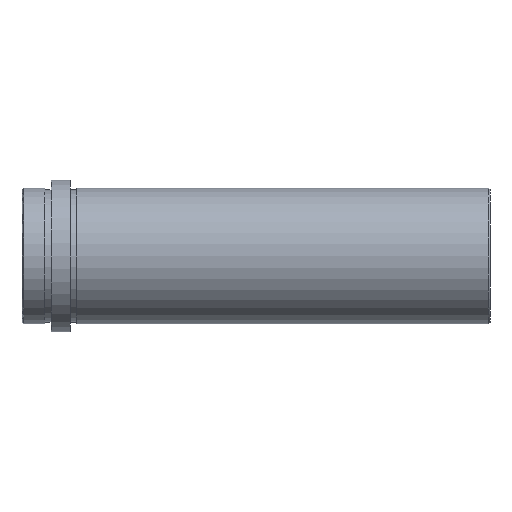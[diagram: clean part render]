
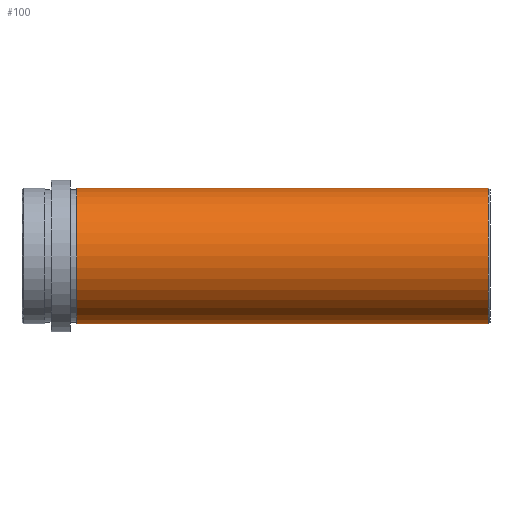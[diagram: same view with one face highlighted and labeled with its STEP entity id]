
A CAD part, front view. The second image highlights one B-rep face of the part: STEP entity #100.
In plain terms, the highlighted face is a revolution surface.
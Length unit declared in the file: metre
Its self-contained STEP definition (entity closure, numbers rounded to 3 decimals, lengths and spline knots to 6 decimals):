
#100 = ADVANCED_FACE( '', ( #157 ), #158, .F. );
#157 = FACE_OUTER_BOUND( '', #250, .T. );
#158 = SURFACE_OF_REVOLUTION( '', #251, #252 );
#250 = EDGE_LOOP( '', ( #419, #420, #421, #422 ) );
#251 = B_SPLINE_CURVE_WITH_KNOTS( '', 1, ( #423, #424 ), .UNSPECIFIED., .F., .F., ( 2, 2 ), ( -10000., 10000. ), .UNSPECIFIED. );
#252 = AXIS1_PLACEMENT( '', #425, #426 );
#419 = ORIENTED_EDGE( '', *, *, #492, .T. );
#420 = ORIENTED_EDGE( '', *, *, #490, .T. );
#421 = ORIENTED_EDGE( '', *, *, #445, .F. );
#422 = ORIENTED_EDGE( '', *, *, #489, .T. );
#423 = CARTESIAN_POINT( '', ( 10000.1445, 0., 0.021 ) );
#424 = CARTESIAN_POINT( '', ( -9999.8555, 0., 0.021 ) );
#425 = CARTESIAN_POINT( '', ( 0., 0., 0. ) );
#426 = DIRECTION( '', ( 1., 0., 0. ) );
#445 = EDGE_CURVE( '', #499, #500, #501, .T. );
#489 = EDGE_CURVE( '', #499, #571, #572, .F. );
#490 = EDGE_CURVE( '', #573, #500, #574, .T. );
#492 = EDGE_CURVE( '', #571, #573, #576, .T. );
#499 = VERTEX_POINT( '', #583 );
#500 = VERTEX_POINT( '', #584 );
#501 = CIRCLE( '', #585, 0.021 );
#571 = VERTEX_POINT( '', #671 );
#572 = LINE( '', #672, #673 );
#573 = VERTEX_POINT( '', #674 );
#574 = LINE( '', #675, #676 );
#576 = CIRCLE( '', #678, 0.021 );
#583 = CARTESIAN_POINT( '', ( 0.017, 0., -0.021 ) );
#584 = CARTESIAN_POINT( '', ( 0.017, 0., 0.021 ) );
#585 = AXIS2_PLACEMENT_3D( '', #689, #690, #691 );
#671 = CARTESIAN_POINT( '', ( 0.1445, 0., -0.021 ) );
#672 = CARTESIAN_POINT( '', ( 0.1445, 0., -0.021 ) );
#673 = VECTOR( '', #789, 1. );
#674 = CARTESIAN_POINT( '', ( 0.1445, 0., 0.021 ) );
#675 = CARTESIAN_POINT( '', ( 0.1445, 0., 0.021 ) );
#676 = VECTOR( '', #790, 1. );
#678 = AXIS2_PLACEMENT_3D( '', #794, #795, #796 );
#689 = CARTESIAN_POINT( '', ( 0.017, 0., 0. ) );
#690 = DIRECTION( '', ( -1., 0., 0. ) );
#691 = DIRECTION( '', ( 0., 0., 1. ) );
#789 = DIRECTION( '', ( -1., 0., 0. ) );
#790 = DIRECTION( '', ( -1., 0., 0. ) );
#794 = CARTESIAN_POINT( '', ( 0.1445, 0., 0. ) );
#795 = DIRECTION( '', ( -1., 0., 0. ) );
#796 = DIRECTION( '', ( 0., 0., 1. ) );
